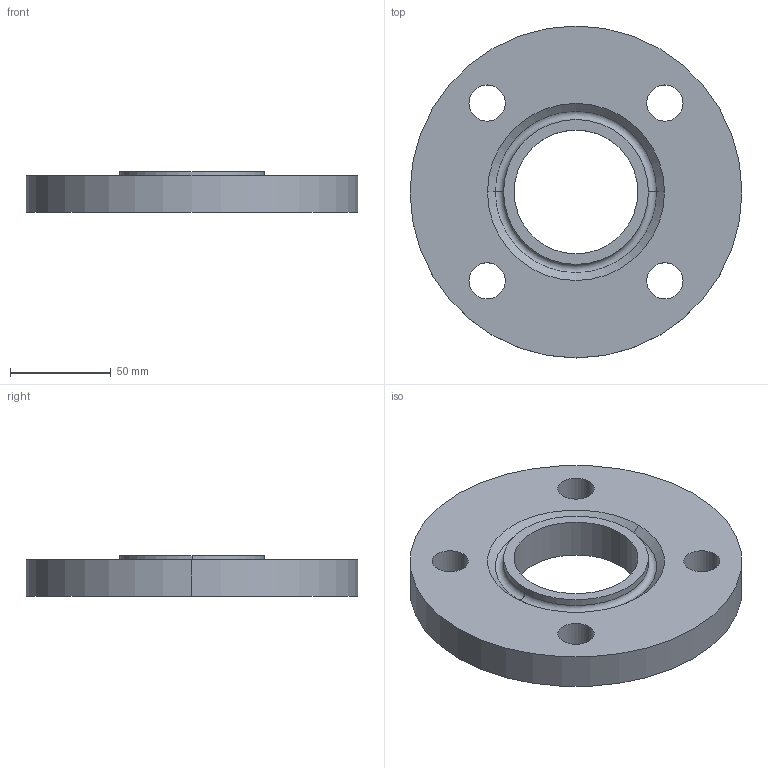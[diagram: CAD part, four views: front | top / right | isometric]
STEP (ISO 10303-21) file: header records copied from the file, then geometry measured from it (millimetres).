
FILE_DESCRIPTION (( 'STEP AP214' ), '1' );
FILE_NAME ('PN40 DN50 Type 01 - Type H Face.STEP', '2018-12-30T04:44:02', ( '' ), ( '' ), 'SwSTEP 2.0', 'SolidWorks 2019', '' );
FILE_SCHEMA (( 'AUTOMOTIVE_DESIGN' ));
Length unit declared in the file: millimetre
Products named in the file (1): PN40 DN50 Type 01 - Type H Face
Bounding box: 165 x 165 x 20 mm (x, y, z)
Volume: 310018.7 mm3; surface area: 53545.7 mm2
Topology: 1 solids, 1 shells, 21 faces, 50 edges, 32 vertices
Faces by surface type: cylinder 14, plane 3, torus 2, cone 2
Entity records: 680 total; most frequent: DIRECTION 128, CARTESIAN_POINT 104, ORIENTED_EDGE 100, AXIS2_PLACEMENT_3D 56, EDGE_CURVE 50, CIRCLE 34, VERTEX_POINT 32, EDGE_LOOP 32
